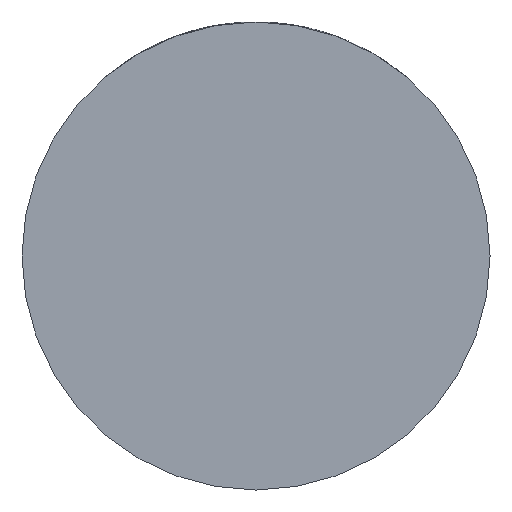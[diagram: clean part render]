
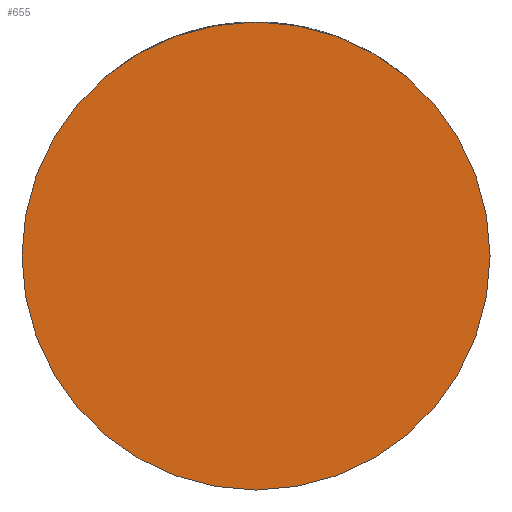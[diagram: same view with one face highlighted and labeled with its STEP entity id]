
A CAD part, front view. The second image highlights one B-rep face of the part: STEP entity #655.
In plain terms, the highlighted planar face has unit normal (0, -1, 0).
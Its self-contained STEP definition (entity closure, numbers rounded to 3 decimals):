
#180 = DIRECTION ( 'NONE',  ( 0., -1., 0. ) ) ;
#655 = ADVANCED_FACE ( 'NONE', ( #2100 ), #3846, .T. ) ;
#715 = ORIENTED_EDGE ( 'NONE', *, *, #1154, .T. ) ;
#1136 = ORIENTED_EDGE ( 'NONE', *, *, #2576, .T. ) ;
#1154 = EDGE_CURVE ( 'NONE', #4104, #4142, #1374, .T. ) ;
#1374 = CIRCLE ( 'NONE', #4042, 32. ) ;
#1506 = AXIS2_PLACEMENT_3D ( 'NONE', #4187, #3480, #1770 ) ;
#1770 = DIRECTION ( 'NONE',  ( 1., 0., 0. ) ) ;
#1824 = AXIS2_PLACEMENT_3D ( 'NONE', #4292, #180, #1889 ) ;
#1889 = DIRECTION ( 'NONE',  ( 1., 0., 0. ) ) ;
#1915 = DIRECTION ( 'NONE',  ( 1., 0., 0. ) ) ;
#2100 = FACE_OUTER_BOUND ( 'NONE', #3879, .T. ) ;
#2257 = CARTESIAN_POINT ( 'NONE',  ( -32., -28., 0. ) ) ;
#2576 = EDGE_CURVE ( 'NONE', #4142, #4104, #4209, .T. ) ;
#3480 = DIRECTION ( 'NONE',  ( 0., -1., 0. ) ) ;
#3672 = CARTESIAN_POINT ( 'NONE',  ( 0., -28., 0. ) ) ;
#3846 = PLANE ( 'NONE',  #1506 ) ;
#3879 = EDGE_LOOP ( 'NONE', ( #1136, #715 ) ) ;
#3934 = CARTESIAN_POINT ( 'NONE',  ( 32., -28., 0. ) ) ;
#4014 = DIRECTION ( 'NONE',  ( 0., -1., 0. ) ) ;
#4042 = AXIS2_PLACEMENT_3D ( 'NONE', #3672, #4014, #1915 ) ;
#4104 = VERTEX_POINT ( 'NONE', #3934 ) ;
#4142 = VERTEX_POINT ( 'NONE', #2257 ) ;
#4187 = CARTESIAN_POINT ( 'NONE',  ( 0., -28., 0. ) ) ;
#4209 = CIRCLE ( 'NONE', #1824, 32. ) ;
#4292 = CARTESIAN_POINT ( 'NONE',  ( 0., -28., 0. ) ) ;
